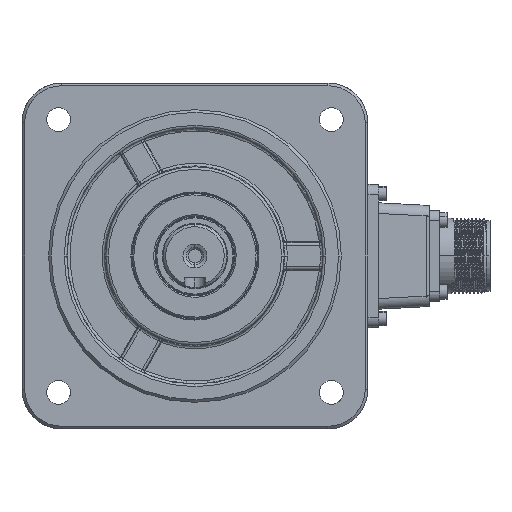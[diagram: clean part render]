
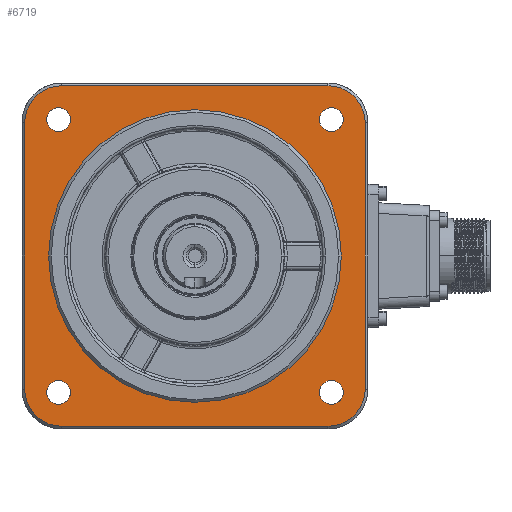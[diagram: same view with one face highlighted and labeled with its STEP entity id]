
A CAD part, left-side view. The second image highlights one B-rep face of the part: STEP entity #6719.
In plain terms, the highlighted planar face has unit normal (-1, 0, 0).
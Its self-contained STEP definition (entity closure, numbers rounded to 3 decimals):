
#218 = VERTEX_POINT('',#219);
#219 = CARTESIAN_POINT('',(-71.,-55.765,-51.265));
#225 = EDGE_CURVE('',#226,#218,#228,.T.);
#226 = VERTEX_POINT('',#227);
#227 = CARTESIAN_POINT('',(-71.,-46.765,-51.265));
#228 = CIRCLE('',#229,4.5);
#229 = AXIS2_PLACEMENT_3D('',#230,#231,#232);
#230 = CARTESIAN_POINT('',(-71.,-51.265,-51.265));
#231 = DIRECTION('',(-1.,0.,0.));
#232 = DIRECTION('',(0.,-1.,0.));
#260 = VERTEX_POINT('',#261);
#261 = CARTESIAN_POINT('',(-71.,46.765,-51.265));
#267 = EDGE_CURVE('',#268,#260,#270,.T.);
#268 = VERTEX_POINT('',#269);
#269 = CARTESIAN_POINT('',(-71.,55.765,-51.265));
#270 = CIRCLE('',#271,4.5);
#271 = AXIS2_PLACEMENT_3D('',#272,#273,#274);
#272 = CARTESIAN_POINT('',(-71.,51.265,-51.265));
#273 = DIRECTION('',(-1.,0.,0.));
#274 = DIRECTION('',(0.,-1.,0.));
#302 = VERTEX_POINT('',#303);
#303 = CARTESIAN_POINT('',(-71.,46.765,51.265));
#309 = EDGE_CURVE('',#310,#302,#312,.T.);
#310 = VERTEX_POINT('',#311);
#311 = CARTESIAN_POINT('',(-71.,55.765,51.265));
#312 = CIRCLE('',#313,4.5);
#313 = AXIS2_PLACEMENT_3D('',#314,#315,#316);
#314 = CARTESIAN_POINT('',(-71.,51.265,51.265));
#315 = DIRECTION('',(-1.,0.,0.));
#316 = DIRECTION('',(0.,-1.,0.));
#344 = VERTEX_POINT('',#345);
#345 = CARTESIAN_POINT('',(-71.,-55.765,51.265));
#351 = EDGE_CURVE('',#352,#344,#354,.T.);
#352 = VERTEX_POINT('',#353);
#353 = CARTESIAN_POINT('',(-71.,-46.765,51.265));
#354 = CIRCLE('',#355,4.5);
#355 = AXIS2_PLACEMENT_3D('',#356,#357,#358);
#356 = CARTESIAN_POINT('',(-71.,-51.265,51.265));
#357 = DIRECTION('',(-1.,0.,0.));
#358 = DIRECTION('',(0.,-1.,0.));
#395 = VERTEX_POINT('',#396);
#396 = CARTESIAN_POINT('',(-71.,-55.,0.));
#402 = EDGE_CURVE('',#395,#403,#405,.T.);
#403 = VERTEX_POINT('',#404);
#404 = CARTESIAN_POINT('',(-71.,55.,0.));
#405 = CIRCLE('',#406,55.);
#406 = AXIS2_PLACEMENT_3D('',#407,#408,#409);
#407 = CARTESIAN_POINT('',(-71.,0.,0.)
  );
#408 = DIRECTION('',(-1.,0.,0.));
#409 = DIRECTION('',(0.,-1.,0.));
#6144 = EDGE_CURVE('',#403,#395,#6145,.T.);
#6145 = CIRCLE('',#6146,55.);
#6146 = AXIS2_PLACEMENT_3D('',#6147,#6148,#6149);
#6147 = CARTESIAN_POINT('',(-71.,0.,0.
    ));
#6148 = DIRECTION('',(-1.,0.,0.));
#6149 = DIRECTION('',(0.,-1.,0.));
#6159 = EDGE_CURVE('',#344,#352,#6160,.T.);
#6160 = CIRCLE('',#6161,4.5);
#6161 = AXIS2_PLACEMENT_3D('',#6162,#6163,#6164);
#6162 = CARTESIAN_POINT('',(-71.,-51.265,51.265));
#6163 = DIRECTION('',(-1.,0.,0.));
#6164 = DIRECTION('',(0.,-1.,0.));
#6183 = EDGE_CURVE('',#302,#310,#6184,.T.);
#6184 = CIRCLE('',#6185,4.5);
#6185 = AXIS2_PLACEMENT_3D('',#6186,#6187,#6188);
#6186 = CARTESIAN_POINT('',(-71.,51.265,51.265));
#6187 = DIRECTION('',(-1.,0.,0.));
#6188 = DIRECTION('',(0.,-1.,0.));
#6207 = EDGE_CURVE('',#260,#268,#6208,.T.);
#6208 = CIRCLE('',#6209,4.5);
#6209 = AXIS2_PLACEMENT_3D('',#6210,#6211,#6212);
#6210 = CARTESIAN_POINT('',(-71.,51.265,-51.265));
#6211 = DIRECTION('',(-1.,0.,0.));
#6212 = DIRECTION('',(0.,-1.,0.));
#6232 = VERTEX_POINT('',#6233);
#6233 = CARTESIAN_POINT('',(-71.,-64.,-50.));
#6250 = VERTEX_POINT('',#6251);
#6251 = CARTESIAN_POINT('',(-71.,-64.,50.));
#6257 = EDGE_CURVE('',#6232,#6250,#6258,.T.);
#6258 = LINE('',#6259,#6260);
#6259 = CARTESIAN_POINT('',(-71.,-64.,50.));
#6260 = VECTOR('',#6261,1.);
#6261 = DIRECTION('',(0.,0.,1.));
#6271 = EDGE_CURVE('',#218,#226,#6272,.T.);
#6272 = CIRCLE('',#6273,4.5);
#6273 = AXIS2_PLACEMENT_3D('',#6274,#6275,#6276);
#6274 = CARTESIAN_POINT('',(-71.,-51.265,-51.265));
#6275 = DIRECTION('',(-1.,0.,0.));
#6276 = DIRECTION('',(0.,-1.,0.));
#6668 = VERTEX_POINT('',#6669);
#6669 = CARTESIAN_POINT('',(-71.,50.,-64.));
#6684 = VERTEX_POINT('',#6685);
#6685 = CARTESIAN_POINT('',(-71.,-50.,-64.));
#6691 = EDGE_CURVE('',#6668,#6684,#6692,.T.);
#6692 = LINE('',#6693,#6694);
#6693 = CARTESIAN_POINT('',(-71.,-50.,-64.));
#6694 = VECTOR('',#6695,1.);
#6695 = DIRECTION('',(0.,-1.,0.));
#6708 = EDGE_CURVE('',#6684,#6232,#6709,.T.);
#6709 = CIRCLE('',#6710,14.);
#6710 = AXIS2_PLACEMENT_3D('',#6711,#6712,#6713);
#6711 = CARTESIAN_POINT('',(-71.,-50.,-50.));
#6712 = DIRECTION('',(-1.,0.,0.));
#6713 = DIRECTION('',(0.,-1.,0.));
#6719 = ADVANCED_FACE('',(#6720,#6766,#6770,#6774,#6778,#6782),#6786,.T.
  );
#6720 = FACE_BOUND('',#6721,.T.);
#6721 = EDGE_LOOP('',(#6722,#6723,#6724,#6733,#6741,#6750,#6758,#6765));
#6722 = ORIENTED_EDGE('',*,*,#6708,.T.);
#6723 = ORIENTED_EDGE('',*,*,#6257,.T.);
#6724 = ORIENTED_EDGE('',*,*,#6725,.T.);
#6725 = EDGE_CURVE('',#6250,#6726,#6728,.T.);
#6726 = VERTEX_POINT('',#6727);
#6727 = CARTESIAN_POINT('',(-71.,-50.,64.));
#6728 = CIRCLE('',#6729,14.);
#6729 = AXIS2_PLACEMENT_3D('',#6730,#6731,#6732);
#6730 = CARTESIAN_POINT('',(-71.,-50.,50.));
#6731 = DIRECTION('',(-1.,0.,0.));
#6732 = DIRECTION('',(0.,-1.,0.));
#6733 = ORIENTED_EDGE('',*,*,#6734,.T.);
#6734 = EDGE_CURVE('',#6726,#6735,#6737,.T.);
#6735 = VERTEX_POINT('',#6736);
#6736 = CARTESIAN_POINT('',(-71.,50.,64.));
#6737 = LINE('',#6738,#6739);
#6738 = CARTESIAN_POINT('',(-71.,50.,64.));
#6739 = VECTOR('',#6740,1.);
#6740 = DIRECTION('',(0.,1.,0.));
#6741 = ORIENTED_EDGE('',*,*,#6742,.T.);
#6742 = EDGE_CURVE('',#6735,#6743,#6745,.T.);
#6743 = VERTEX_POINT('',#6744);
#6744 = CARTESIAN_POINT('',(-71.,64.,50.));
#6745 = CIRCLE('',#6746,14.);
#6746 = AXIS2_PLACEMENT_3D('',#6747,#6748,#6749);
#6747 = CARTESIAN_POINT('',(-71.,50.,50.));
#6748 = DIRECTION('',(-1.,0.,0.));
#6749 = DIRECTION('',(0.,-1.,0.));
#6750 = ORIENTED_EDGE('',*,*,#6751,.T.);
#6751 = EDGE_CURVE('',#6743,#6752,#6754,.T.);
#6752 = VERTEX_POINT('',#6753);
#6753 = CARTESIAN_POINT('',(-71.,64.,-50.));
#6754 = LINE('',#6755,#6756);
#6755 = CARTESIAN_POINT('',(-71.,64.,-50.));
#6756 = VECTOR('',#6757,1.);
#6757 = DIRECTION('',(0.,0.,-1.));
#6758 = ORIENTED_EDGE('',*,*,#6759,.T.);
#6759 = EDGE_CURVE('',#6752,#6668,#6760,.T.);
#6760 = CIRCLE('',#6761,14.);
#6761 = AXIS2_PLACEMENT_3D('',#6762,#6763,#6764);
#6762 = CARTESIAN_POINT('',(-71.,50.,-50.));
#6763 = DIRECTION('',(-1.,0.,0.));
#6764 = DIRECTION('',(0.,-1.,0.));
#6765 = ORIENTED_EDGE('',*,*,#6691,.T.);
#6766 = FACE_BOUND('',#6767,.T.);
#6767 = EDGE_LOOP('',(#6768,#6769));
#6768 = ORIENTED_EDGE('',*,*,#6271,.F.);
#6769 = ORIENTED_EDGE('',*,*,#225,.F.);
#6770 = FACE_BOUND('',#6771,.T.);
#6771 = EDGE_LOOP('',(#6772,#6773));
#6772 = ORIENTED_EDGE('',*,*,#6207,.F.);
#6773 = ORIENTED_EDGE('',*,*,#267,.F.);
#6774 = FACE_BOUND('',#6775,.T.);
#6775 = EDGE_LOOP('',(#6776,#6777));
#6776 = ORIENTED_EDGE('',*,*,#6183,.F.);
#6777 = ORIENTED_EDGE('',*,*,#309,.F.);
#6778 = FACE_BOUND('',#6779,.T.);
#6779 = EDGE_LOOP('',(#6780,#6781));
#6780 = ORIENTED_EDGE('',*,*,#6159,.F.);
#6781 = ORIENTED_EDGE('',*,*,#351,.F.);
#6782 = FACE_BOUND('',#6783,.T.);
#6783 = EDGE_LOOP('',(#6784,#6785));
#6784 = ORIENTED_EDGE('',*,*,#6144,.F.);
#6785 = ORIENTED_EDGE('',*,*,#402,.F.);
#6786 = PLANE('',#6787);
#6787 = AXIS2_PLACEMENT_3D('',#6788,#6789,#6790);
#6788 = CARTESIAN_POINT('',(-71.,0.,0.
    ));
#6789 = DIRECTION('',(-1.,0.,0.));
#6790 = DIRECTION('',(0.,-1.,0.));
